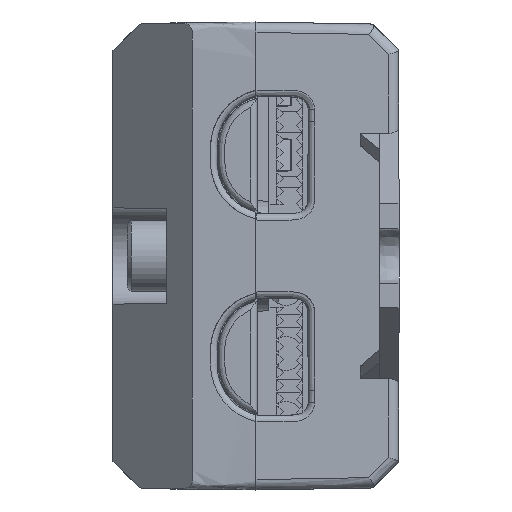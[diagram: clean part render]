
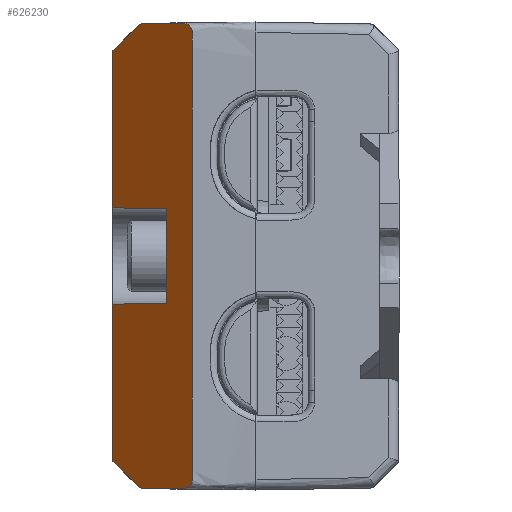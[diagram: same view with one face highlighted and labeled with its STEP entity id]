
A CAD part, left-side view. The second image highlights one B-rep face of the part: STEP entity #626230.
In plain terms, the highlighted planar face has unit normal (0, -0.707, -0.707) by its records, which use the part's own axes.
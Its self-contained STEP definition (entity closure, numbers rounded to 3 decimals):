
#610000=CARTESIAN_POINT('',(-0.344,80.343,
8.964));
#610010=VERTEX_POINT('',#610000);
#610040=CARTESIAN_POINT('',(35.344,80.343,
8.964));
#610050=CARTESIAN_POINT('',(35.355,81.02,
8.287));
#610060=CARTESIAN_POINT('',(35.37,81.867,
7.44));
#610070=CARTESIAN_POINT('',(35.388,82.883,
6.424));
#610080=CARTESIAN_POINT('',(35.396,83.307,
6.001));
#610090=CARTESIAN_POINT('',(35.4,83.598,
5.71));
#610100=CARTESIAN_POINT('',(35.404,83.76,
5.548));
#610110=CARTESIAN_POINT('',(35.379,83.922,
5.386));
#610120=CARTESIAN_POINT('',(35.291,84.126,
5.181));
#610130=CARTESIAN_POINT('',(35.106,84.304,
5.004));
#610140=CARTESIAN_POINT('',(34.899,84.393,
4.914));
#610150=CARTESIAN_POINT('',(34.752,84.416,
4.891));
#610160=CARTESIAN_POINT('',(34.634,84.414,
4.893));
#610170=CARTESIAN_POINT('',(34.513,84.415,
4.893));
#610180=CARTESIAN_POINT('',(34.177,84.414,
4.893));
#610190=CARTESIAN_POINT('',(33.383,84.415,
4.893));
#610200=CARTESIAN_POINT('',(31.674,84.414,
4.893));
#610210=CARTESIAN_POINT('',(26.3,84.415,
4.893));
#610220=CARTESIAN_POINT('',(17.507,84.414,
4.893));
#610230=CARTESIAN_POINT('',(8.714,84.415,
4.893));
#610240=CARTESIAN_POINT('',(3.341,84.414,
4.893));
#610250=CARTESIAN_POINT('',(1.631,84.415,
4.893));
#610260=CARTESIAN_POINT('',(0.837,84.414,
4.893));
#610270=CARTESIAN_POINT('',(0.501,84.415,
4.893));
#610280=CARTESIAN_POINT('',(0.38,84.414,
4.893));
#610290=CARTESIAN_POINT('',(0.291,84.416,
4.892));
#610300=CARTESIAN_POINT('',(0.203,84.409,
4.898));
#610310=CARTESIAN_POINT('',(0.089,84.387,
4.92));
#610320=CARTESIAN_POINT('',(-0.199,84.268,
5.039));
#610330=CARTESIAN_POINT('',(-0.364,84.011,
5.297));
#610340=CARTESIAN_POINT('',(-0.404,83.767,
5.54));
#610350=CARTESIAN_POINT('',(-0.4,83.605,
5.703));
#610360=CARTESIAN_POINT('',(-0.396,83.313,
5.995));
#610370=CARTESIAN_POINT('',(-0.388,82.889,
6.419));
#610380=CARTESIAN_POINT('',(-0.37,81.87,
7.437));
#610390=CARTESIAN_POINT('',(-0.355,81.022,
8.286));
#610400=CARTESIAN_POINT('',(-0.344,80.343,
8.964));
#610410=B_SPLINE_CURVE_WITH_KNOTS('',3,(#610040,#610050,#610060,#610070,
#610080,#610090,#610100,#610110,#610120,#610130,#610140,#610150,#610160,
#610170,#610180,#610190,#610200,#610210,#610220,#610230,#610240,#610250,
#610260,#610270,#610280,#610290,#610300,#610310,#610320,#610330,#610340,
#610350,#610360,#610370,#610380,#610390,#610400),.UNSPECIFIED.,.F.,.F.,(
4,1,1,1,1,1,1,1,1,1,1,1,1,1,1,1,1,1,1,1,1,1,1,1,1,1,1,1,1,1,1,1,1,1,4),(
0.,0.062,0.077,0.093,
0.1,0.104,0.107,0.115,
0.123,0.127,0.13,0.132,
0.134,0.138,0.154,0.185,
0.248,0.5,0.752,0.815,
0.846,0.862,0.866,0.868,
0.87,0.871,0.873,0.877,
0.892,0.896,0.9,0.907,
0.923,0.938,1.),.UNSPECIFIED.);
#610420=CARTESIAN_POINT('',(35.344,80.343,
8.964));
#610430=VERTEX_POINT('',#610420);
#610440=EDGE_CURVE('',#610430,#610010,#610410,.T.);
#619260=CARTESIAN_POINT('',(33.308,78.308,
11.));
#619270=VERTEX_POINT('',#619260);
#619300=CARTESIAN_POINT('',(0.,78.308,11.));
#619310=DIRECTION('',(1.,0.,0.));
#619320=VECTOR('',#619310,1.);
#619330=LINE('',#619300,#619320);
#619340=CARTESIAN_POINT('',(21.206,78.308,
11.));
#619350=VERTEX_POINT('',#619340);
#619360=EDGE_CURVE('',#619350,#619270,#619330,.T.);
#619720=CARTESIAN_POINT('',(13.794,78.308,
11.));
#619730=VERTEX_POINT('',#619720);
#619760=CARTESIAN_POINT('',(0.,78.308,11.));
#619770=DIRECTION('',(-1.,0.,0.));
#619780=VECTOR('',#619770,1.);
#619790=LINE('',#619760,#619780);
#619800=CARTESIAN_POINT('',(1.692,78.308,
11.));
#619810=VERTEX_POINT('',#619800);
#619820=EDGE_CURVE('',#619730,#619810,#619790,.T.);
#625670=CARTESIAN_POINT('',(-45.,0.,89.308));
#625680=DIRECTION('',(-0.577,-0.577,
0.577));
#625690=VECTOR('',#625680,1.);
#625700=LINE('',#625670,#625690);
#625710=EDGE_CURVE('',#610430,#619270,#625700,.T.);
#625840=CARTESIAN_POINT('',(35.903,84.568,
4.739));
#625850=DIRECTION('',(-0.,-0.707,-0.707));
#625860=DIRECTION('',(0.,-0.707,0.707));
#625870=AXIS2_PLACEMENT_3D('',#625840,#625850,#625860);
#625880=PLANE('',#625870);
#625890=ORIENTED_EDGE('',*,*,#619360,.F.);
#625900=ORIENTED_EDGE('',*,*,#625710,.T.);
#625910=ORIENTED_EDGE('',*,*,#610440,.F.);
#625920=CARTESIAN_POINT('',(80.,0.,89.308));
#625930=DIRECTION('',(-0.577,0.577,
-0.577));
#625940=VECTOR('',#625930,1.);
#625950=LINE('',#625920,#625940);
#625960=EDGE_CURVE('',#619810,#610010,#625950,.T.);
#625970=ORIENTED_EDGE('',*,*,#625960,.T.);
#625980=ORIENTED_EDGE('',*,*,#619820,.T.);
#625990=CARTESIAN_POINT('',(13.794,78.308,
11.));
#626000=DIRECTION('',(0.012,0.707,
-0.707));
#626010=VECTOR('',#626000,1.);
#626020=LINE('',#625990,#626010);
#626030=CARTESIAN_POINT('',(13.865,82.415,
6.893));
#626040=VERTEX_POINT('',#626030);
#626050=EDGE_CURVE('',#619730,#626040,#626020,.T.);
#626060=ORIENTED_EDGE('',*,*,#626050,.F.);
#626070=CARTESIAN_POINT('',(0.,82.415,6.893));
#626080=DIRECTION('',(-1.,0.,0.));
#626090=VECTOR('',#626080,1.);
#626100=LINE('',#626070,#626090);
#626110=CARTESIAN_POINT('',(21.135,82.415,
6.893));
#626120=VERTEX_POINT('',#626110);
#626130=EDGE_CURVE('',#626120,#626040,#626100,.T.);
#626140=ORIENTED_EDGE('',*,*,#626130,.T.);
#626150=CARTESIAN_POINT('',(21.135,82.415,
6.893));
#626160=DIRECTION('',(0.012,-0.707,
0.707));
#626170=VECTOR('',#626160,1.);
#626180=LINE('',#626150,#626170);
#626190=EDGE_CURVE('',#626120,#619350,#626180,.T.);
#626200=ORIENTED_EDGE('',*,*,#626190,.F.);
#626210=EDGE_LOOP('',(#626200,#626140,#626060,#625980,#625970,#625910,
#625900,#625890));
#626220=FACE_OUTER_BOUND('',#626210,.T.);
#626230=ADVANCED_FACE('',(#626220),#625880,.T.);
